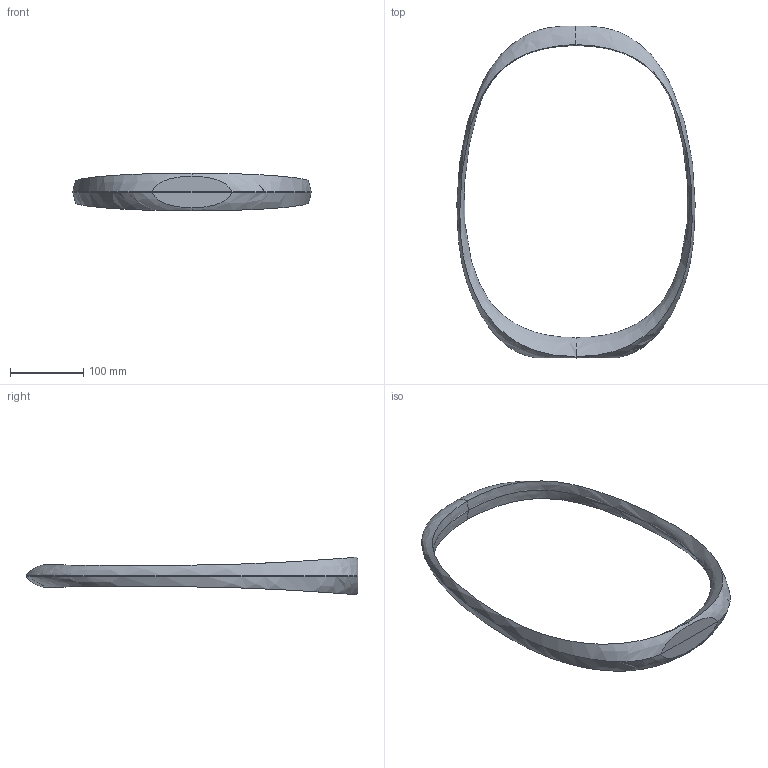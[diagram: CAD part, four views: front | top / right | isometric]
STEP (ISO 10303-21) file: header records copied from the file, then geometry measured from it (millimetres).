
FILE_DESCRIPTION (( 'STEP AP203' ), '1' );
FILE_NAME ('213_GRANDE_T_LD_3D.STEP', '2021-04-13T12:41:53', ( '' ), ( '' ), 'SwSTEP 2.0', 'SolidWorks 2021', '' );
FILE_SCHEMA (( 'CONFIG_CONTROL_DESIGN' ));
Length unit declared in the file: millimetre
Products named in the file (1): 213_GRANDE_T_LD_3D
Bounding box: 325.85 x 453.86 x 50.91 mm (x, y, z)
Surface area: 102318.3 mm2 (no closed solid volume)
Topology: 0 solids, 2 shells, 10 faces, 26 edges, 16 vertices
Faces by surface type: bspline 8, plane 2
Entity records: 10440 total; most frequent: CARTESIAN_POINT 10195, ORIENTED_EDGE 42, EDGE_CURVE 26, B_SPLINE_CURVE_WITH_KNOTS 24, VERTEX_POINT 16, FACE_OUTER_BOUND 10, ADVANCED_FACE 10, EDGE_LOOP 10
